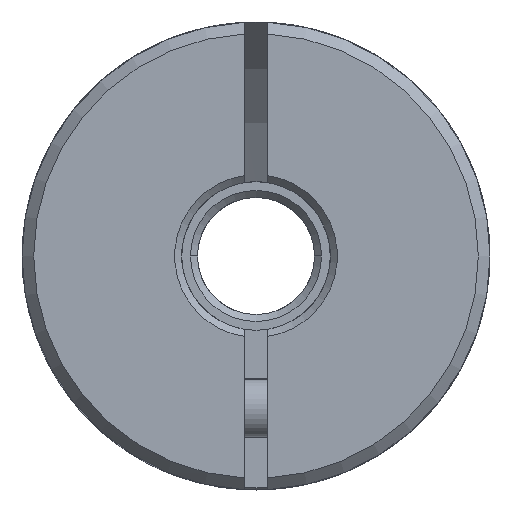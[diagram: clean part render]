
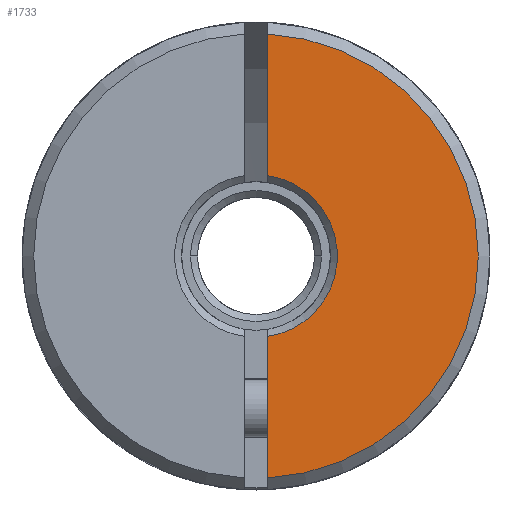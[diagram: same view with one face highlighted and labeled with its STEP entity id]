
A CAD part, front view. The second image highlights one B-rep face of the part: STEP entity #1733.
In plain terms, the highlighted planar face has unit normal (0, -1, 0).
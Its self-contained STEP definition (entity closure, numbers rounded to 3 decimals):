
#82 = CARTESIAN_POINT ( 'NONE',  ( 0., -33., 0. ) ) ;
#148 = DIRECTION ( 'NONE',  ( 0., 0., -1. ) ) ;
#626 = ORIENTED_EDGE ( 'NONE', *, *, #4350, .F. ) ;
#747 = DIRECTION ( 'NONE',  ( 0., 0., 1. ) ) ;
#873 = CARTESIAN_POINT ( 'NONE',  ( 0.5, -33., 9.487 ) ) ;
#1190 = ORIENTED_EDGE ( 'NONE', *, *, #9171, .T. ) ;
#1525 = DIRECTION ( 'NONE',  ( 0., 1., 0. ) ) ;
#1733 = ADVANCED_FACE ( 'NONE', ( #7739 ), #2253, .F. ) ;
#2147 = DIRECTION ( 'NONE',  ( 0., 0., -1. ) ) ;
#2216 = DIRECTION ( 'NONE',  ( 0., 1., 0. ) ) ;
#2253 = PLANE ( 'NONE',  #5306 ) ;
#3122 = VECTOR ( 'NONE', #747, 1000. ) ;
#3221 = CARTESIAN_POINT ( 'NONE',  ( 0.5, -33., -3.439 ) ) ;
#3757 = EDGE_CURVE ( 'NONE', #4456, #9624, #5251, .T. ) ;
#4350 = EDGE_CURVE ( 'NONE', #4456, #9214, #7463, .T. ) ;
#4456 = VERTEX_POINT ( 'NONE', #8037 ) ;
#4494 = LINE ( 'NONE', #10218, #3122 ) ;
#5251 = CIRCLE ( 'NONE', #7119, 3.475 ) ;
#5306 = AXIS2_PLACEMENT_3D ( 'NONE', #5359, #2216, #2147 ) ;
#5359 = CARTESIAN_POINT ( 'NONE',  ( 50., -33., -12.292 ) ) ;
#5431 = VERTEX_POINT ( 'NONE', #6962 ) ;
#5674 = EDGE_CURVE ( 'NONE', #5431, #9624, #4494, .T. ) ;
#6280 = DIRECTION ( 'NONE',  ( 0., 0., 1. ) ) ;
#6319 = ORIENTED_EDGE ( 'NONE', *, *, #3757, .T. ) ;
#6378 = CIRCLE ( 'NONE', #8283, 9.5 ) ;
#6962 = CARTESIAN_POINT ( 'NONE',  ( 0.5, -33., -9.487 ) ) ;
#7119 = AXIS2_PLACEMENT_3D ( 'NONE', #7785, #1525, #10207 ) ;
#7242 = VECTOR ( 'NONE', #6280, 1000. ) ;
#7463 = LINE ( 'NONE', #7999, #7242 ) ;
#7739 = FACE_OUTER_BOUND ( 'NONE', #9041, .T. ) ;
#7785 = CARTESIAN_POINT ( 'NONE',  ( 0., -33., 0. ) ) ;
#7999 = CARTESIAN_POINT ( 'NONE',  ( 0.5, -33., -12.292 ) ) ;
#8037 = CARTESIAN_POINT ( 'NONE',  ( 0.5, -33., 3.439 ) ) ;
#8283 = AXIS2_PLACEMENT_3D ( 'NONE', #82, #9641, #148 ) ;
#9041 = EDGE_LOOP ( 'NONE', ( #9546, #1190, #626, #6319 ) ) ;
#9171 = EDGE_CURVE ( 'NONE', #5431, #9214, #6378, .T. ) ;
#9214 = VERTEX_POINT ( 'NONE', #873 ) ;
#9546 = ORIENTED_EDGE ( 'NONE', *, *, #5674, .F. ) ;
#9624 = VERTEX_POINT ( 'NONE', #3221 ) ;
#9641 = DIRECTION ( 'NONE',  ( 0., -1., 0. ) ) ;
#10207 = DIRECTION ( 'NONE',  ( 0., 0., -1. ) ) ;
#10218 = CARTESIAN_POINT ( 'NONE',  ( 0.5, -33., -12.292 ) ) ;
